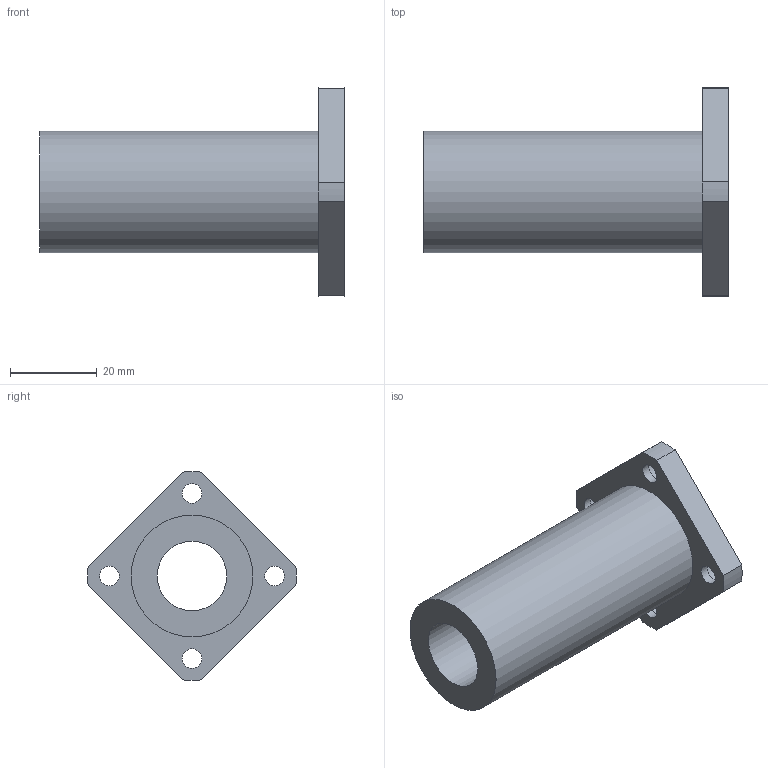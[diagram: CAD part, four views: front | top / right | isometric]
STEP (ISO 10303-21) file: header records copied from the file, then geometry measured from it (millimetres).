
FILE_DESCRIPTION(/* description */ ('Unknown'),/* implementation_level */ '2;1');
FILE_NAME(/* name */ 'LMK16LUU',/* time_stamp */ '2025-02-04T10:42:04+08:00',/* author */ ('Unknown'),/* organization */ ('Unknown'),/* preprocessor_version */ 'ST-DEVELOPER v18.102',/* originating_system */ 'Solid Edge',/* authorisation */ 'Unknown');
FILE_SCHEMA (('AUTOMOTIVE_DESIGN {1 0 10303 214 3 1 1}'));
Length unit declared in the file: millimetre
Products named in the file (1): LMK16LUU
Bounding box: 70 x 47.98 x 47.98 mm (x, y, z)
Volume: 32586.5 mm3; surface area: 12655.2 mm2
Topology: 1 solids, 1 shells, 25 faces, 54 edges, 36 vertices
Faces by surface type: cylinder 14, plane 11
Full cylindrical faces by diameter (mm): 4.5 x4, 7.5 x4, 16 x1, 28 x1
Entity records: 696 total; most frequent: DIRECTION 124, CARTESIAN_POINT 106, ORIENTED_EDGE 88, AXIS2_PLACEMENT_3D 54, EDGE_LOOP 50, FACE_BOUND 50, EDGE_CURVE 44, VERTEX_POINT 36
